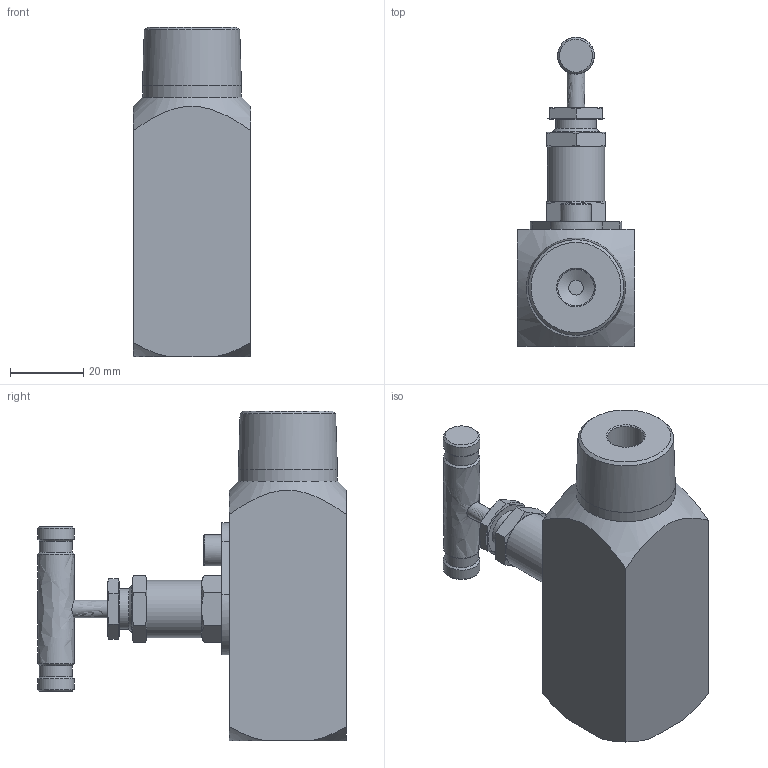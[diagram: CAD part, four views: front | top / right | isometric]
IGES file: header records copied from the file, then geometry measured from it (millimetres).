
Global section: file name: SGBV-M12N-F8N; native system: Autodesk Inventor 2016; preprocessor: unknown; author: DESIGNPC2; date: 20161008.114714; units: millimetre
Bounding box: 32 x 84.35 x 90 mm (x, y, z)
Volume: 84005.2 mm3; surface area: 20131.1 mm2
Topology: 3 solids, 3 shells, 128 faces, 336 edges, 223 vertices
Faces by surface type: bspline 128
